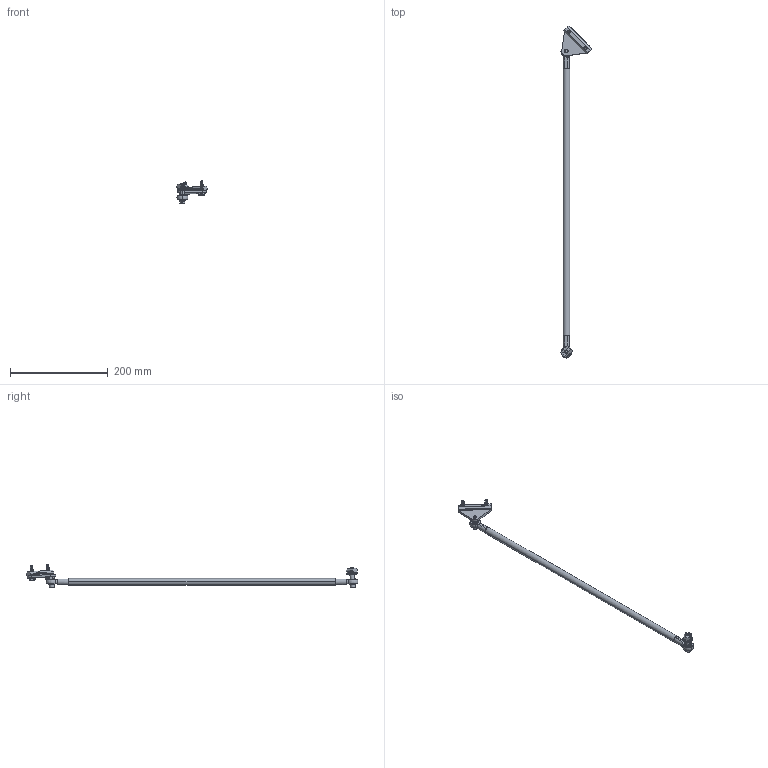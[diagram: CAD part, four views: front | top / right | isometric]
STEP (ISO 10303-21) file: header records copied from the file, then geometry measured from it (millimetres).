
FILE_DESCRIPTION((''),'2;1');
FILE_NAME('39MB-TT_ASM','2023-02-27T',('jenni.wallner'),(''),'PRO/ENGINEER BY PARAMETRIC TECHNOLOGY CORPORATION, 2012420','PRO/ENGINEER BY PARAMETRIC TECHNOLOGY CORPORATION, 2012420','');
FILE_SCHEMA(('CONFIG_CONTROL_DESIGN'));
Length unit declared in the file: inch
Products named in the file (16): 801-129_1; 710008_1; 710011_1; 450226SSP_1; 807-1291_1; 920635M_1; 639971M_1; 920622M_1; 990601M_1; 710013_1; 300150M_1; 920616M_1; 807-1937_1; 39MB-TT_ASM_ASM_1_ASM; 39MB-TT_ASM_1_ASM; 39MB-TT_ASM
Assembly tree (19 placements, depth 4):
  39MB-TT_ASM
    39MB-TT_ASM_1_ASM
      39MB-TT_ASM_ASM_1_ASM
        801-129_1  x2
        710008_1
        710011_1
        450226SSP_1  x2
        807-1291_1
        920635M_1
        639971M_1
        920622M_1
        990601M_1
        710013_1
        300150M_1
        920616M_1  x2
        807-1937_1  x2
Bounding box: 62.87 x 679.31 x 47.4 mm (x, y, z)
Volume: 107355.7 mm3; surface area: 79113.7 mm2
Topology: 17 solids, 24 shells, 329 faces, 808 edges, 527 vertices
Faces by surface type: plane 146, cylinder 115, cone 48, sphere 14, torus 6
Entity records: 8336 total; most frequent: CARTESIAN_POINT 1757, DIRECTION 1442, ORIENTED_EDGE 1188, EDGE_CURVE 608, AXIS2_PLACEMENT_3D 575, VERTEX_POINT 404, EDGE_LOOP 294, VECTOR 292
